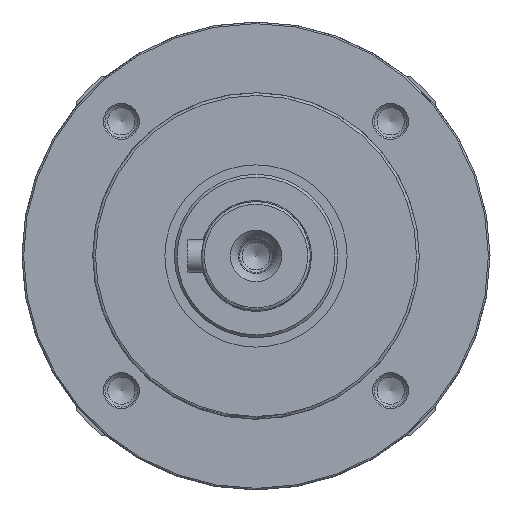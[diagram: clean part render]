
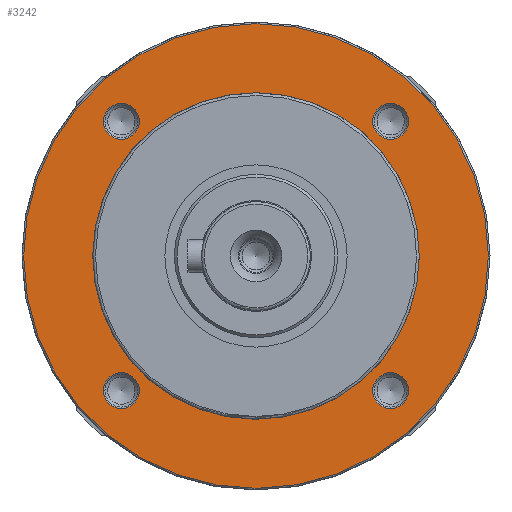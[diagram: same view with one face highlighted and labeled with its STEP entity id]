
A CAD part, left-side view. The second image highlights one B-rep face of the part: STEP entity #3242.
In plain terms, the highlighted planar face has unit normal (-1, 0, 0).
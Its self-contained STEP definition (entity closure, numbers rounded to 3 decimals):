
#644=FACE_BOUND('',#938,.T.);
#645=FACE_BOUND('',#939,.T.);
#646=FACE_BOUND('',#940,.T.);
#647=FACE_BOUND('',#941,.T.);
#648=FACE_BOUND('',#942,.T.);
#720=FACE_OUTER_BOUND('',#937,.T.);
#937=EDGE_LOOP('',(#2317));
#938=EDGE_LOOP('',(#2318));
#939=EDGE_LOOP('',(#2319));
#940=EDGE_LOOP('',(#2320));
#941=EDGE_LOOP('',(#2321));
#942=EDGE_LOOP('',(#2322));
#1209=CIRCLE('',#3515,42.7);
#1215=CIRCLE('',#3527,3.3);
#1216=CIRCLE('',#3528,3.3);
#1217=CIRCLE('',#3529,3.3);
#1218=CIRCLE('',#3530,30.);
#1219=CIRCLE('',#3531,3.3);
#1423=VERTEX_POINT('',#5072);
#1428=VERTEX_POINT('',#5091);
#1429=VERTEX_POINT('',#5093);
#1430=VERTEX_POINT('',#5095);
#1431=VERTEX_POINT('',#5097);
#1432=VERTEX_POINT('',#5099);
#1766=EDGE_CURVE('',#1423,#1423,#1209,.T.);
#1774=EDGE_CURVE('',#1428,#1428,#1215,.T.);
#1775=EDGE_CURVE('',#1429,#1429,#1216,.T.);
#1776=EDGE_CURVE('',#1430,#1430,#1217,.T.);
#1777=EDGE_CURVE('',#1431,#1431,#1218,.T.);
#1778=EDGE_CURVE('',#1432,#1432,#1219,.T.);
#2317=ORIENTED_EDGE('',*,*,#1766,.F.);
#2318=ORIENTED_EDGE('',*,*,#1774,.T.);
#2319=ORIENTED_EDGE('',*,*,#1775,.T.);
#2320=ORIENTED_EDGE('',*,*,#1776,.T.);
#2321=ORIENTED_EDGE('',*,*,#1777,.F.);
#2322=ORIENTED_EDGE('',*,*,#1778,.T.);
#3148=PLANE('',#3526);
#3242=ADVANCED_FACE('',(#720,#644,#645,#646,#647,#648),#3148,.T.);
#3515=AXIS2_PLACEMENT_3D('',#5073,#4021,#4022);
#3526=AXIS2_PLACEMENT_3D('',#5090,#4045,#4046);
#3527=AXIS2_PLACEMENT_3D('',#5092,#4047,#4048);
#3528=AXIS2_PLACEMENT_3D('',#5094,#4049,#4050);
#3529=AXIS2_PLACEMENT_3D('',#5096,#4051,#4052);
#3530=AXIS2_PLACEMENT_3D('',#5098,#4053,#4054);
#3531=AXIS2_PLACEMENT_3D('',#5100,#4055,#4056);
#4021=DIRECTION('center_axis',(1.,0.,0.));
#4022=DIRECTION('ref_axis',(0.,-1.,0.));
#4045=DIRECTION('center_axis',(-1.,0.,0.));
#4046=DIRECTION('ref_axis',(0.,1.,0.));
#4047=DIRECTION('center_axis',(1.,0.,0.));
#4048=DIRECTION('ref_axis',(0.,0.,-1.));
#4049=DIRECTION('center_axis',(1.,0.,0.));
#4050=DIRECTION('ref_axis',(0.,0.,-1.));
#4051=DIRECTION('center_axis',(1.,0.,0.));
#4052=DIRECTION('ref_axis',(0.,0.,-1.));
#4053=DIRECTION('center_axis',(-1.,0.,0.));
#4054=DIRECTION('ref_axis',(0.,1.,0.));
#4055=DIRECTION('center_axis',(1.,0.,0.));
#4056=DIRECTION('ref_axis',(0.,0.,-1.));
#5072=CARTESIAN_POINT('',(-82.,42.7,-0.187));
#5073=CARTESIAN_POINT('Origin',(-82.,0.,0.));
#5090=CARTESIAN_POINT('Origin',(-82.,0.,0.));
#5091=CARTESIAN_POINT('',(-82.,24.749,-21.449));
#5092=CARTESIAN_POINT('Origin',(-82.,24.749,-24.749));
#5093=CARTESIAN_POINT('',(-82.,-24.749,-21.449));
#5094=CARTESIAN_POINT('Origin',(-82.,-24.749,-24.749));
#5095=CARTESIAN_POINT('',(-82.,-24.749,28.049));
#5096=CARTESIAN_POINT('Origin',(-82.,-24.749,24.749));
#5097=CARTESIAN_POINT('',(-82.,-29.999,-0.279));
#5098=CARTESIAN_POINT('Origin',(-82.,0.,0.));
#5099=CARTESIAN_POINT('',(-82.,24.749,28.049));
#5100=CARTESIAN_POINT('Origin',(-82.,24.749,24.749));
